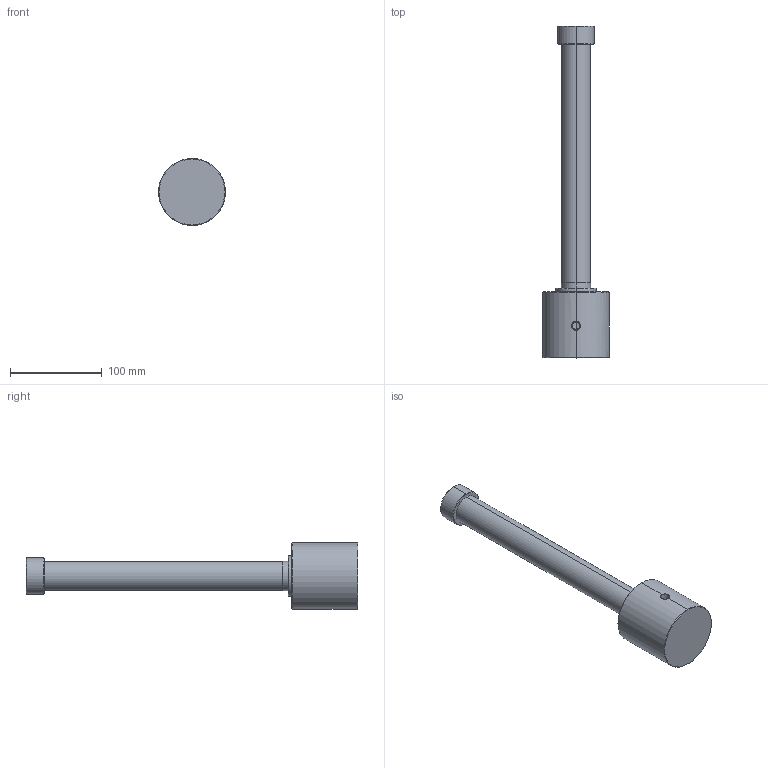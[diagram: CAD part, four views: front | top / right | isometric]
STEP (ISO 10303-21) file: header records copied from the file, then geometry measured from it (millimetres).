
FILE_DESCRIPTION((' '),'2;1');
FILE_NAME( 'TMG-2-400_step.prt.stp', '2024-08-27T14:05:43', (' '), ('--- Datakit www.datakit.com---'), ' Datakit CrossCadWare V2024.1 Dec 21 2023', 'Mastercam 2025', ' ');
FILE_SCHEMA(('AUTOMOTIVE_DESIGN { 1 0 10303 214 1 1 1 1 }'));
Length unit declared in the file: millimetre
Products named in the file (1): TMG-2-400_step
Bounding box: 73 x 362 x 73 mm (x, y, z)
Volume: 387562.8 mm3; surface area: 82598.3 mm2
Topology: 1 solids, 1 shells, 74 faces, 173 edges, 110 vertices
Faces by surface type: cylinder 35, plane 20, cone 19
Entity records: 2305 total; most frequent: CARTESIAN_POINT 557, DIRECTION 385, ORIENTED_EDGE 338, EDGE_CURVE 169, AXIS2_PLACEMENT_3D 160, VERTEX_POINT 110, EDGE_LOOP 89, CIRCLE 85
